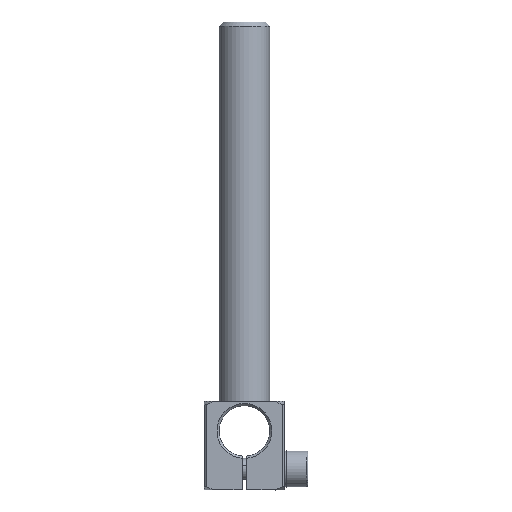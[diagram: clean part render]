
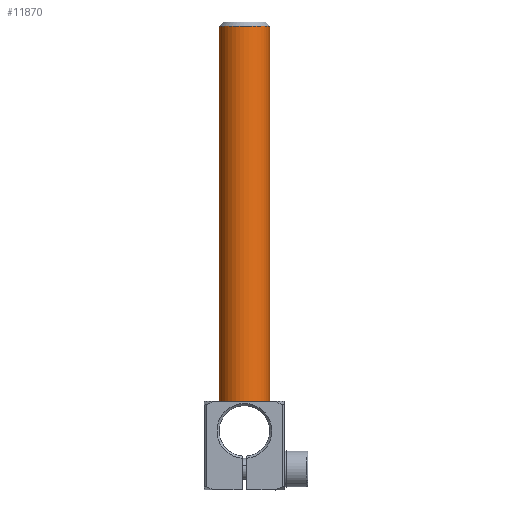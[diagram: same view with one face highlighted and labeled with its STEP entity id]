
A CAD part, front view. The second image highlights one B-rep face of the part: STEP entity #11870.
In plain terms, the highlighted cylindrical face has radius 6 mm (diameter 12 mm), a partial arc.
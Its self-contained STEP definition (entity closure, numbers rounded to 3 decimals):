
#740 = DIRECTION ( 'NONE',  ( -1., 0., 0. ) ) ;
#782 = EDGE_CURVE ( 'NONE', #11201, #5214, #5331, .T. ) ;
#824 = FACE_OUTER_BOUND ( 'NONE', #6531, .T. ) ;
#979 = ORIENTED_EDGE ( 'NONE', *, *, #782, .T. ) ;
#1183 = ORIENTED_EDGE ( 'NONE', *, *, #4513, .F. ) ;
#1241 = CARTESIAN_POINT ( 'NONE',  ( -49.9, 22.192, -34.5 ) ) ;
#1593 = EDGE_CURVE ( 'NONE', #4157, #11201, #9108, .T. ) ;
#2187 = DIRECTION ( 'NONE',  ( -1., 0., 0. ) ) ;
#2291 = DIRECTION ( 'NONE',  ( 0., 0., -1. ) ) ;
#2970 = CARTESIAN_POINT ( 'NONE',  ( -49.9, 22.192, 54.5 ) ) ;
#3352 = ORIENTED_EDGE ( 'NONE', *, *, #11427, .T. ) ;
#3362 = VECTOR ( 'NONE', #2291, 1000. ) ;
#3471 = AXIS2_PLACEMENT_3D ( 'NONE', #12167, #6497, #740 ) ;
#3735 = CIRCLE ( 'NONE', #6512, 6. ) ;
#4097 = CARTESIAN_POINT ( 'NONE',  ( -55.9, 22.192, 54.5 ) ) ;
#4157 = VERTEX_POINT ( 'NONE', #4097 ) ;
#4279 = DIRECTION ( 'NONE',  ( 0., 0., 1. ) ) ;
#4308 = DIRECTION ( 'NONE',  ( 0., 0., 1. ) ) ;
#4328 = EDGE_CURVE ( 'NONE', #4157, #9022, #3735, .T. ) ;
#4513 = EDGE_CURVE ( 'NONE', #5803, #4532, #10957, .T. ) ;
#4532 = VERTEX_POINT ( 'NONE', #8034 ) ;
#5141 = CARTESIAN_POINT ( 'NONE',  ( -55.9, 22.192, 54.5 ) ) ;
#5214 = VERTEX_POINT ( 'NONE', #7480 ) ;
#5331 = CIRCLE ( 'NONE', #7544, 6. ) ;
#5375 = CARTESIAN_POINT ( 'NONE',  ( -55.9, 22.192, -34.5 ) ) ;
#5452 = AXIS2_PLACEMENT_3D ( 'NONE', #9947, #4279, #10914 ) ;
#5803 = VERTEX_POINT ( 'NONE', #9140 ) ;
#6009 = AXIS2_PLACEMENT_3D ( 'NONE', #2970, #9596, #6838 ) ;
#6083 = ORIENTED_EDGE ( 'NONE', *, *, #6741, .F. ) ;
#6111 = DIRECTION ( 'NONE',  ( 0., 0., -1. ) ) ;
#6143 = CARTESIAN_POINT ( 'NONE',  ( -43.9, 22.192, 54.5 ) ) ;
#6497 = DIRECTION ( 'NONE',  ( 0., 0., 1. ) ) ;
#6512 = AXIS2_PLACEMENT_3D ( 'NONE', #9972, #4308, #10944 ) ;
#6531 = EDGE_LOOP ( 'NONE', ( #1183, #6083, #6619, #10562, #979, #3352 ) ) ;
#6599 = VECTOR ( 'NONE', #6111, 1000. ) ;
#6619 = ORIENTED_EDGE ( 'NONE', *, *, #4328, .F. ) ;
#6741 = EDGE_CURVE ( 'NONE', #9022, #5803, #10131, .T. ) ;
#6838 = DIRECTION ( 'NONE',  ( -1., 0., 0. ) ) ;
#6999 = CARTESIAN_POINT ( 'NONE',  ( -49.9, 16.192, 54.5 ) ) ;
#7268 = CYLINDRICAL_SURFACE ( 'NONE', #6009, 6. ) ;
#7480 = CARTESIAN_POINT ( 'NONE',  ( -49.9, 16.192, -34.5 ) ) ;
#7544 = AXIS2_PLACEMENT_3D ( 'NONE', #1241, #7919, #2187 ) ;
#7919 = DIRECTION ( 'NONE',  ( 0., 0., 1. ) ) ;
#8034 = CARTESIAN_POINT ( 'NONE',  ( -43.9, 22.192, -34.5 ) ) ;
#9022 = VERTEX_POINT ( 'NONE', #6999 ) ;
#9108 = LINE ( 'NONE', #5141, #6599 ) ;
#9140 = CARTESIAN_POINT ( 'NONE',  ( -43.9, 22.192, 54.5 ) ) ;
#9596 = DIRECTION ( 'NONE',  ( 0., 0., -1. ) ) ;
#9947 = CARTESIAN_POINT ( 'NONE',  ( -49.9, 22.192, -34.5 ) ) ;
#9972 = CARTESIAN_POINT ( 'NONE',  ( -49.9, 22.192, 54.5 ) ) ;
#10131 = CIRCLE ( 'NONE', #3471, 6. ) ;
#10562 = ORIENTED_EDGE ( 'NONE', *, *, #1593, .T. ) ;
#10748 = CIRCLE ( 'NONE', #5452, 6. ) ;
#10914 = DIRECTION ( 'NONE',  ( -1., 0., 0. ) ) ;
#10944 = DIRECTION ( 'NONE',  ( -1., 0., 0. ) ) ;
#10957 = LINE ( 'NONE', #6143, #3362 ) ;
#11201 = VERTEX_POINT ( 'NONE', #5375 ) ;
#11427 = EDGE_CURVE ( 'NONE', #5214, #4532, #10748, .T. ) ;
#11870 = ADVANCED_FACE ( 'NONE', ( #824 ), #7268, .T. ) ;
#12167 = CARTESIAN_POINT ( 'NONE',  ( -49.9, 22.192, 54.5 ) ) ;
